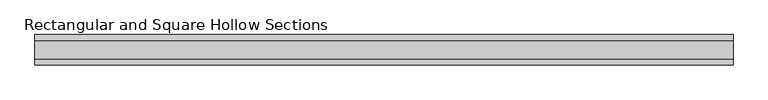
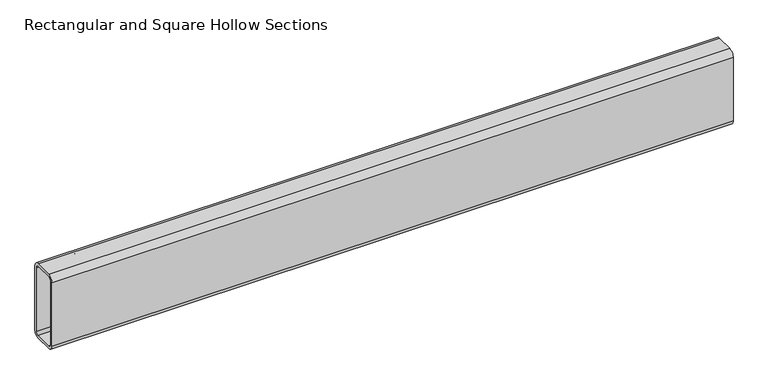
"""IFC4 building model written with IfcOpenShell, lengths in millimetres: beam geometry, Rectangular and Square Hollow Sections : TREC160x60x6."""

from ifc_helpers import new_model, si_unit, point, frame, frame_2d, origin, place, context, project, spatial, polyline, circle_curve, trimmed, segment, composite_curve, outline, extrude, source, transform, mapped, element, save


def rectangular_and_square_hollow_sections_8e62f9b5(model_context):
    return source(origin(), model_context, "Body", "SweptSolid", [
        extrude(outline(composite_curve([segment(polyline([(30.0, 68.0), (30.0, -68.0)]), True, "CONTINUOUS"), segment(trimmed(circle_curve(frame_2d((18.0, -68.0)), 12.0), [point((30.0, -68.0))], [point((18.0, -80.0))], False, "CARTESIAN"), True, "CONTINUOUS"), segment(polyline([(18.0, -80.0), (-18.0, -80.0)]), True, "CONTINUOUS"), segment(trimmed(circle_curve(frame_2d((-18.0, -68.0)), 12.0), [point((-18.0, -80.0))], [point((-30.0, -68.0))], False, "CARTESIAN"), True, "CONTINUOUS"), segment(polyline([(-30.0, -68.0), (-30.0, 68.0)]), True, "CONTINUOUS"), segment(trimmed(circle_curve(frame_2d((-18.0, 68.0)), 12.0), [point((-30.0, 68.0))], [point((-18.0, 80.0))], False, "CARTESIAN"), True, "CONTINUOUS"), segment(polyline([(-18.0, 80.0), (18.0, 80.0)]), True, "CONTINUOUS"), segment(trimmed(circle_curve(frame_2d((18.0, 68.0)), 12.0), [point((18.0, 80.0))], [point((30.0, 68.0))], False, "CARTESIAN"), True, "CONTINUOUS")], self_intersect=False), holes=[composite_curve([segment(trimmed(circle_curve(frame_2d((-18.0, 68.0)), 6.0), [point((-18.0, 74.0))], [point((-24.0, 68.0))], True, "CARTESIAN"), True, "CONTINUOUS"), segment(polyline([(-24.0, 68.0), (-24.0, -68.0)]), True, "CONTINUOUS"), segment(trimmed(circle_curve(frame_2d((-18.0, -68.0)), 6.0), [point((-24.0, -68.0))], [point((-18.0, -74.0))], True, "CARTESIAN"), True, "CONTINUOUS"), segment(polyline([(-18.0, -74.0), (18.0, -74.0)]), True, "CONTINUOUS"), segment(trimmed(circle_curve(frame_2d((18.0, -68.0)), 6.0), [point((18.0, -74.0))], [point((24.0, -68.0))], True, "CARTESIAN"), True, "CONTINUOUS"), segment(polyline([(24.0, -68.0), (24.0, 68.0)]), True, "CONTINUOUS"), segment(trimmed(circle_curve(frame_2d((18.0, 68.0)), 6.0), [point((24.0, 68.0))], [point((18.0, 74.0))], True, "CARTESIAN"), True, "CONTINUOUS"), segment(polyline([(18.0, 74.0), (-18.0, 74.0)]), True, "CONTINUOUS")], self_intersect=False)]), frame((-716.5, 0.0, 0.0), z_axis=(1.0, 0.0, 0.0), x_axis=(0.0, 1.0, 0.0)), (0.0, 0.0, 1.0), 1385.0),
    ])


if __name__ == "__main__":
    model = new_model("IFC4")
    model_context = context("Model", 3, world=origin())
    ifc_project = project(units=[si_unit("LENGTHUNIT", "METRE", prefix="MILLI")], contexts=[model_context])
    site = spatial("IfcSite", under=ifc_project)
    building = spatial("IfcBuilding", under=site)
    placement = place(None, origin())
    rectangular_and_square_hollow_sections_shape = rectangular_and_square_hollow_sections_8e62f9b5(model_context)
    element("IfcBeam", 1, ObjectType="Rectangular and Square Hollow Sections : TREC160x60x6", at=placement, inside=building, context=model_context, shape_type="MappedRepresentation", body=[
        mapped(rectangular_and_square_hollow_sections_shape, transform((0.0, 0.0, 0.0), x_axis=(1.0, 0.0, 0.0), y_axis=(0.0, 1.0, 0.0), z_axis=(0.0, 0.0, 1.0))),
    ])
    save(model, "model.ifc")
